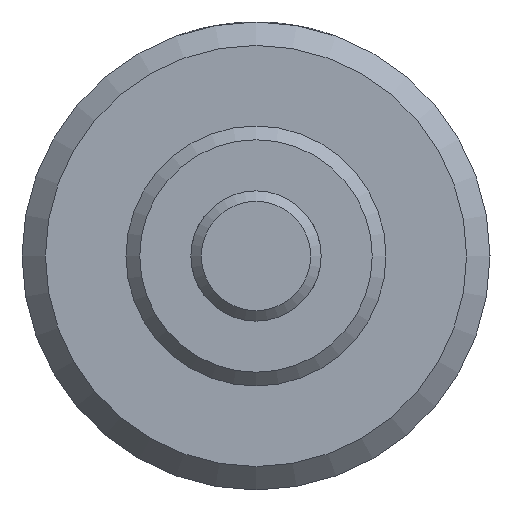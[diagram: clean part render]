
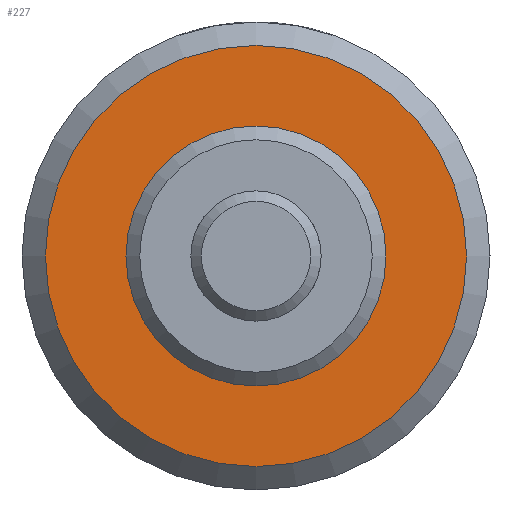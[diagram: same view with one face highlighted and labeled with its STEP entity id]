
A CAD part, left-side view. The second image highlights one B-rep face of the part: STEP entity #227.
In plain terms, the highlighted planar face has unit normal (-1, 0, 0).
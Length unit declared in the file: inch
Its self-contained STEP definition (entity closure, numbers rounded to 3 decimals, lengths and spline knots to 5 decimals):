
#227 = ADVANCED_FACE( '', ( #471, #472 ), #473, .F. );
#471 = FACE_OUTER_BOUND( '', #719, .T. );
#472 = FACE_BOUND( '', #720, .T. );
#473 = PLANE( '', #721 );
#719 = EDGE_LOOP( '', ( #1126 ) );
#720 = EDGE_LOOP( '', ( #1127 ) );
#721 = AXIS2_PLACEMENT_3D( '', #1128, #1129, #1130 );
#1126 = ORIENTED_EDGE( '', *, *, #1345, .F. );
#1127 = ORIENTED_EDGE( '', *, *, #1289, .T. );
#1128 = CARTESIAN_POINT( '', ( 0.5, 0.312, 0. ) );
#1129 = DIRECTION( '', ( 1., 0., 0. ) );
#1130 = DIRECTION( '', ( 0., 0., -1. ) );
#1289 = EDGE_CURVE( '', #1484, #1484, #1485, .T. );
#1345 = EDGE_CURVE( '', #1570, #1570, #1571, .T. );
#1484 = VERTEX_POINT( '', #1851 );
#1485 = CIRCLE( '', #1852, 0.312 );
#1570 = VERTEX_POINT( '', #1978 );
#1571 = CIRCLE( '', #1979, 0.50625 );
#1851 = CARTESIAN_POINT( '', ( 0.5, 0., -0.312 ) );
#1852 = AXIS2_PLACEMENT_3D( '', #2187, #2188, #2189 );
#1978 = CARTESIAN_POINT( '', ( 0.5, 0., -0.50625 ) );
#1979 = AXIS2_PLACEMENT_3D( '', #2268, #2269, #2270 );
#2187 = CARTESIAN_POINT( '', ( 0.5, 0., 0. ) );
#2188 = DIRECTION( '', ( 1., 0., 0. ) );
#2189 = DIRECTION( '', ( 0., 0., -1. ) );
#2268 = CARTESIAN_POINT( '', ( 0.5, 0., 0. ) );
#2269 = DIRECTION( '', ( 1., 0., 0. ) );
#2270 = DIRECTION( '', ( 0., 0., -1. ) );
